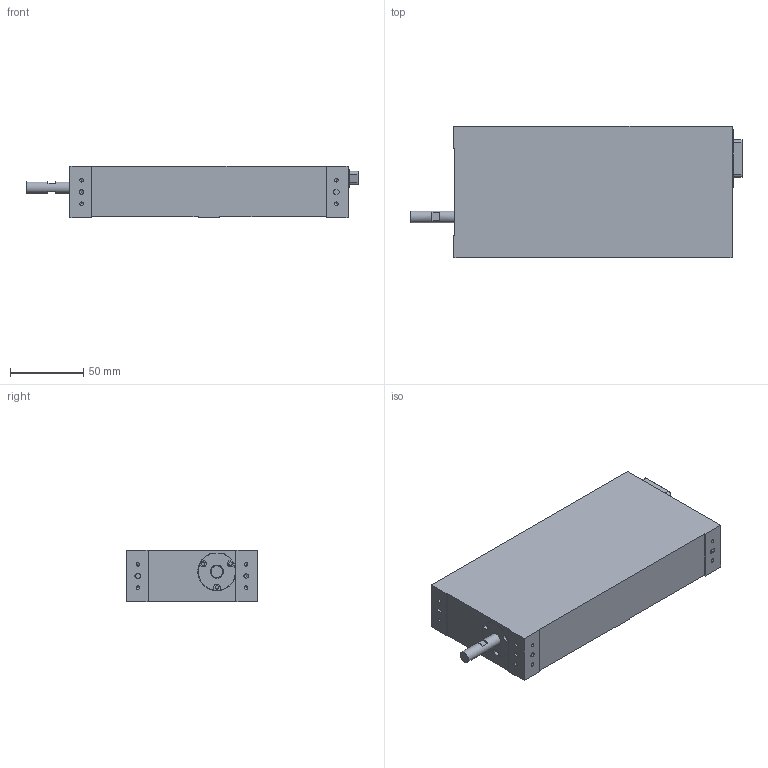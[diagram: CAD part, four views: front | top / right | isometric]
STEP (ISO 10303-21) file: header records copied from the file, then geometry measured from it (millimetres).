
FILE_DESCRIPTION((''),'2;1');
FILE_NAME('C:\Users\karl\Desktop\Sent Stuff\LAR35-050-5_G1.stp','2012-03-09T16:40:49',('karl'),(''),'Autodesk Inventor 2008','Autodesk Inventor 2008','');
FILE_SCHEMA(('AUTOMOTIVE_DESIGN { 1 0 10303 214 1 1 1 1 }'));
Length unit declared in the file: millimetre
Products named in the file (3): LAR35-050-5_G; BODY-2_1; DB26-3Ddwg
Assembly tree (2 placements, depth 2):
  LAR35-050-5_G
    BODY-2_1
    DB26-3Ddwg
Bounding box: 226.81 x 90 x 35 mm (x, y, z)
Volume: 589919.5 mm3; surface area: 59340.7 mm2
Topology: 2 solids, 2 shells, 238 faces, 496 edges, 327 vertices
Faces by surface type: plane 132, cylinder 95, cone 11
Full cylindrical faces by diameter (mm): 1 x52, 2.4 x3, 2.459 x8, 3 x4, 4.134 x1, 8 x1, 9 x1
Entity records: 5927 total; most frequent: DIRECTION 1087, CARTESIAN_POINT 956, ORIENTED_EDGE 800, AXIS2_PLACEMENT_3D 444, EDGE_CURVE 400, EDGE_LOOP 389, VERTEX_POINT 313, FACE_OUTER_BOUND 238
